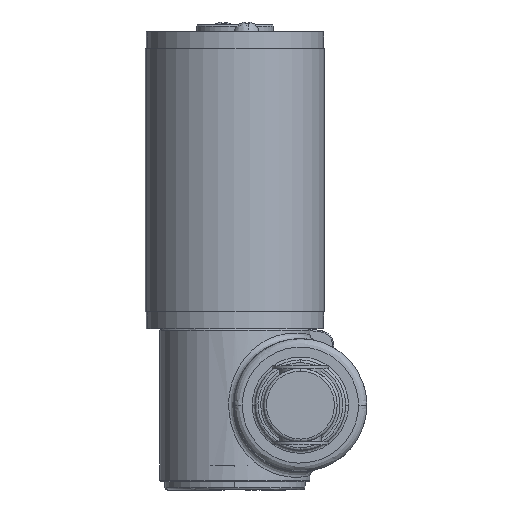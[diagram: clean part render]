
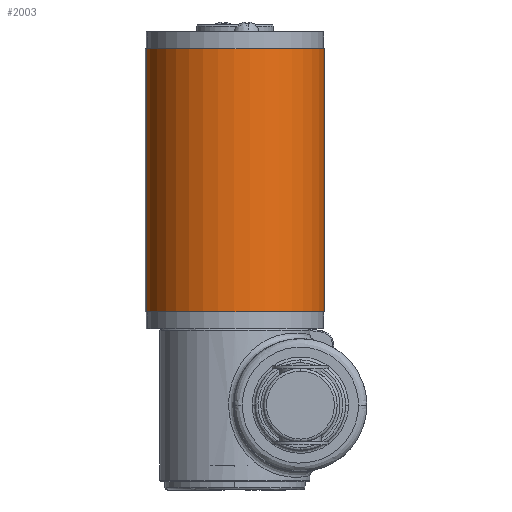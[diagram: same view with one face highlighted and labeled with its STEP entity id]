
A CAD part, front view. The second image highlights one B-rep face of the part: STEP entity #2003.
In plain terms, the highlighted cylindrical face has radius 31.75 mm (diameter 63.5 mm), a partial arc.
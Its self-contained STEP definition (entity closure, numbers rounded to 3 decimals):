
#2003 = ADVANCED_FACE ( 'NONE', ( #5700 ), #5701, .T. ) ;
#2172 = ORIENTED_EDGE ( 'NONE', *, *, #3244, .T. ) ;
#2173 = ORIENTED_EDGE ( 'NONE', *, *, #3245, .T. ) ;
#2174 = ORIENTED_EDGE ( 'NONE', *, *, #3243, .T. ) ;
#2175 = ORIENTED_EDGE ( 'NONE', *, *, #3246, .F. ) ;
#2314 = VERTEX_POINT ( 'NONE', #8210 ) ;
#2315 = VERTEX_POINT ( 'NONE', #8211 ) ;
#2316 = VERTEX_POINT ( 'NONE', #8212 ) ;
#2317 = VERTEX_POINT ( 'NONE', #8213 ) ;
#3011 = EDGE_LOOP ( 'NONE', ( #2172, #2174, #2173, #2175 ) ) ;
#3243 = EDGE_CURVE ( 'NONE', #2315, #2316, #8407, .T. ) ;
#3244 = EDGE_CURVE ( 'NONE', #2314, #2315, #7224, .T. ) ;
#3245 = EDGE_CURVE ( 'NONE', #2316, #2317, #7223, .T. ) ;
#3246 = EDGE_CURVE ( 'NONE', #2314, #2317, #8416, .T. ) ;
#5698 = AXIS2_PLACEMENT_3D ( 'NONE', #7829, #7830, #7831 ) ;
#5700 = FACE_OUTER_BOUND ( 'NONE', #3011, .T. ) ;
#5701 = CYLINDRICAL_SURFACE ( 'NONE', #5698, 31.75 ) ;
#5749 = AXIS2_PLACEMENT_3D ( 'NONE', #8412, #8413, #8414 ) ;
#5751 = AXIS2_PLACEMENT_3D ( 'NONE', #8406, #8410, #8411 ) ;
#5752 = VECTOR ( 'NONE', #8409, 1000. ) ;
#5754 = VECTOR ( 'NONE', #8418, 1000. ) ;
#7223 = CIRCLE ( 'NONE', #5749, 31.75 ) ;
#7224 = CIRCLE ( 'NONE', #5751, 31.75 ) ;
#7829 = CARTESIAN_POINT ( 'NONE',  ( -23.13, 65., 163.517 ) ) ;
#7830 = DIRECTION ( 'NONE',  ( 0., 0., 1. ) ) ;
#7831 = DIRECTION ( 'NONE',  ( -0.987, -0.163, 0. ) ) ;
#8210 = CARTESIAN_POINT ( 'NONE',  ( -54.457, 59.834, 33. ) ) ;
#8211 = CARTESIAN_POINT ( 'NONE',  ( 8.197, 70.166, 33. ) ) ;
#8212 = CARTESIAN_POINT ( 'NONE',  ( 8.197, 70.166, 126. ) ) ;
#8213 = CARTESIAN_POINT ( 'NONE',  ( -54.457, 59.834, 126. ) ) ;
#8406 = CARTESIAN_POINT ( 'NONE',  ( -23.13, 65., 33. ) ) ;
#8407 = LINE ( 'NONE', #8408, #5752 ) ;
#8408 = CARTESIAN_POINT ( 'NONE',  ( 8.197, 70.166, 163.517 ) ) ;
#8409 = DIRECTION ( 'NONE',  ( 0., 0., 1. ) ) ;
#8410 = DIRECTION ( 'NONE',  ( 0., 0., 1. ) ) ;
#8411 = DIRECTION ( 'NONE',  ( -0.987, -0.163, 0. ) ) ;
#8412 = CARTESIAN_POINT ( 'NONE',  ( -23.13, 65., 126. ) ) ;
#8413 = DIRECTION ( 'NONE',  ( 0., 0., -1. ) ) ;
#8414 = DIRECTION ( 'NONE',  ( -0.987, -0.163, 0. ) ) ;
#8416 = LINE ( 'NONE', #8417, #5754 ) ;
#8417 = CARTESIAN_POINT ( 'NONE',  ( -54.457, 59.834, 163.517 ) ) ;
#8418 = DIRECTION ( 'NONE',  ( 0., 0., 1. ) ) ;
